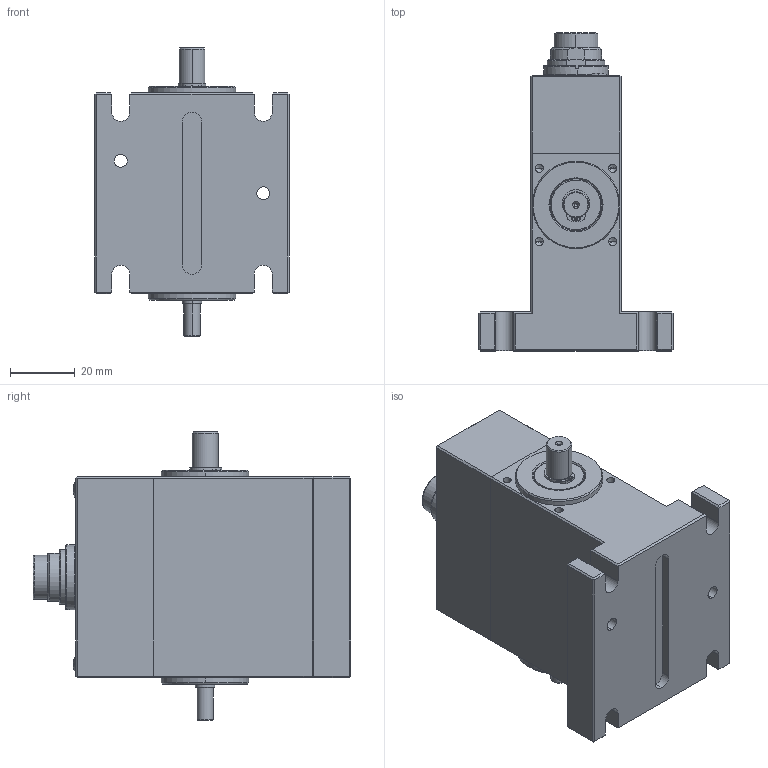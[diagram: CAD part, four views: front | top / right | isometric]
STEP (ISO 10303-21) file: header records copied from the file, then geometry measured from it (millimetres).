
FILE_DESCRIPTION (( 'STEP AP214' ), '1' );
FILE_NAME ('DRVL-I-0,05-1-F.STEP', '2022-04-11T07:07:51', ( '' ), ( '' ), 'SwSTEP 2.0', 'SolidWorks 2022', '' );
FILE_SCHEMA (( 'AUTOMOTIVE_DESIGN' ));
Length unit declared in the file: millimetre
Products named in the file (1): DRVL-I-0,05-1-F
Bounding box: 60 x 98.1 x 89 mm (x, y, z)
Volume: 120127.9 mm3; surface area: 47123.3 mm2
Topology: 25 solids, 41 shells, 988 faces, 2472 edges, 1546 vertices
Faces by surface type: cylinder 334, plane 290, cone 164, torus 114, sphere 82, bspline 4
Entity records: 40267 total; most frequent: CARTESIAN_POINT 5971, DIRECTION 5208, ORIENTED_EDGE 4544, EDGE_CURVE 2272, AXIS2_PLACEMENT_3D 2154, VERTEX_POINT 1450, CIRCLE 1169, EDGE_LOOP 1138
